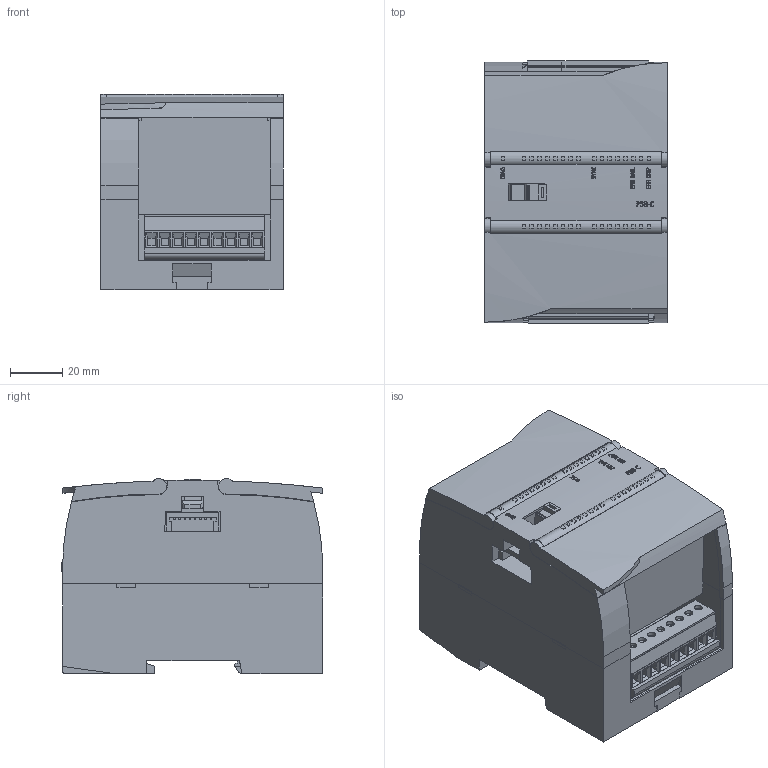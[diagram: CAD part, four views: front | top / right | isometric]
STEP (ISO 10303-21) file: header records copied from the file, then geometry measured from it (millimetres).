
FILE_DESCRIPTION(/* description */ ('STEP AP242','CAx-IF Rec.Pracs.---Representation and Presentation of Product Manufacturing Information (PMI)---4.0---2014-10-13','CAx-IF Rec.Pracs.---3D Tessellated Geometry---0.4---2014-09-14','2;1'),/* implementation_level */ '2;1');
FILE_NAME(/* name */ '6ES72281RC510AA0',/* time_stamp */ '2026-03-27T01:55:00+01:00',/* author */ ('License CC BY-ND 4.0'),/* organization */ ('CADENAS'),/* preprocessor_version */ 'ST-DEVELOPER v20',/* originating_system */ 'PARTsolutions',/* authorisation */ ' ');
FILE_SCHEMA (('AP242_MANAGED_MODEL_BASED_3D_ENGINEERING_MIM_LF { 1 0 10303 442 1 1 4 }'));
Products named in the file (175): 6ES72281RC510AA0; 6ES72281RC510AA0_PART1; 6ES72281RC510AA0_PART2; 6ES72281RC510AA0_PART3; 6ES72281RC510AA0_PART4; 6ES72281RC510AA0_PART5; 6ES72281RC510AA0_PART6; 6ES72281RC510AA0_PART7; 6ES72281RC510AA0_PART8; 6ES72281RC510AA0_PART9; 6ES72281RC510AA0_PART10; 6ES72281RC510AA0_PART11; 6ES72281RC510AA0_PART12; 6ES72281RC510AA0_PART13; 6ES72281RC510AA0_PART14; 6ES72281RC510AA0_PART15; 6ES72281RC510AA0_PART16; 6ES72281RC510AA0_PART17; 6ES72281RC510AA0_PART18; 6ES72281RC510AA0_PART19; 6ES72281RC510AA0_PART20; 6ES72281RC510AA0_PART21; 6ES72281RC510AA0_PART22; 6ES72281RC510AA0_PART23; 6ES72281RC510AA0_PART24; 6ES72281RC510AA0_PART25; 6ES72281RC510AA0_PART26; 6ES72281RC510AA0_PART27; 6ES72281RC510AA0_PART28; 6ES72281RC510AA0_PART29; 6ES72281RC510AA0_PART30; 6ES72281RC510AA0_PART31; 6ES72281RC510AA0_PART32; 6ES72281RC510AA0_PART33; 6ES72281RC510AA0_PART34; 6ES72281RC510AA0_PART35; 6ES72281RC510AA0_PART36; 6ES72281RC510AA0_PART37; 6ES72281RC510AA0_PART38; 6ES72281RC510AA0_PART39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
Assembly tree (177 placements, depth 2):
  6ES72281RC510AA0
    6ES72281RC510AA0_PART1  x2
    6ES72281RC510AA0_PART2  x2
    6ES72281RC510AA0_PART3  x2
    6ES72281RC510AA0_PART4
    6ES72281RC510AA0_PART5
    6ES72281RC510AA0_PART6
    6ES72281RC510AA0_PART7
    6ES72281RC510AA0_PART8
    6ES72281RC510AA0_PART9
    6ES72281RC510AA0_PART10
    6ES72281RC510AA0_PART11
    6ES72281RC510AA0_PART12
    6ES72281RC510AA0_PART13
    6ES72281RC510AA0_PART14
    6ES72281RC510AA0_PART15
    6ES72281RC510AA0_PART16
    6ES72281RC510AA0_PART17
    6ES72281RC510AA0_PART18
    6ES72281RC510AA0_PART19
    6ES72281RC510AA0_PART20
    6ES72281RC510AA0_PART21
    6ES72281RC510AA0_PART22
    6ES72281RC510AA0_PART23
    6ES72281RC510AA0_PART24
    6ES72281RC510AA0_PART25
    6ES72281RC510AA0_PART26
    6ES72281RC510AA0_PART27
    6ES72281RC510AA0_PART28
    6ES72281RC510AA0_PART29
    6ES72281RC510AA0_PART30
    6ES72281RC510AA0_PART31
    6ES72281RC510AA0_PART32
    6ES72281RC510AA0_PART33
    6ES72281RC510AA0_PART34
    6ES72281RC510AA0_PART35
    6ES72281RC510AA0_PART36
    6ES72281RC510AA0_PART37
    6ES72281RC510AA0_PART38
    6ES72281RC510AA0_PART39
    6ES72281RC510AA0_PART40
    6ES72281RC510AA0_PART41
    6ES72281RC510AA0_PART42
    6ES72281RC510AA0_PART43
    6ES72281RC510AA0_PART44
    6ES72281RC510AA0_PART45
    6ES72281RC510AA0_PART46
    6ES72281RC510AA0_PART47
    6ES72281RC510AA0_PART48
    6ES72281RC510AA0_PART49
    6ES72281RC510AA0_PART50
    6ES72281RC510AA0_PART51
    6ES72281RC510AA0_PART52
    6ES72281RC510AA0_PART53
    6ES72281RC510AA0_PART54
    6ES72281RC510AA0_PART55
    6ES72281RC510AA0_PART56
    6ES72281RC510AA0_PART57
    6ES72281RC510AA0_PART58
    6ES72281RC510AA0_PART59
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Bounding box: 70 x 100.66 x 75.05 mm (x, y, z)
Volume: 230042.1 mm3; surface area: 124695.9 mm2
Topology: 177 solids, 177 shells, 2078 faces, 4932 edges, 3251 vertices
Faces by surface type: plane 1450, cylinder 355, bspline 273
Full cylindrical faces by diameter (mm): 0.989 x2, 0.999 x7, 1.9 x4, 2 x4, 3.048 x9, 3.4 x11, 4.3 x2
Entity records: 71207 total; most frequent: CARTESIAN_POINT 17681, ORIENTED_EDGE 9616, DIRECTION 9221, EDGE_CURVE 4808, VERTEX_POINT 3194, LINE 3159, VECTOR 3159, AXIS2_PLACEMENT_3D 3031
